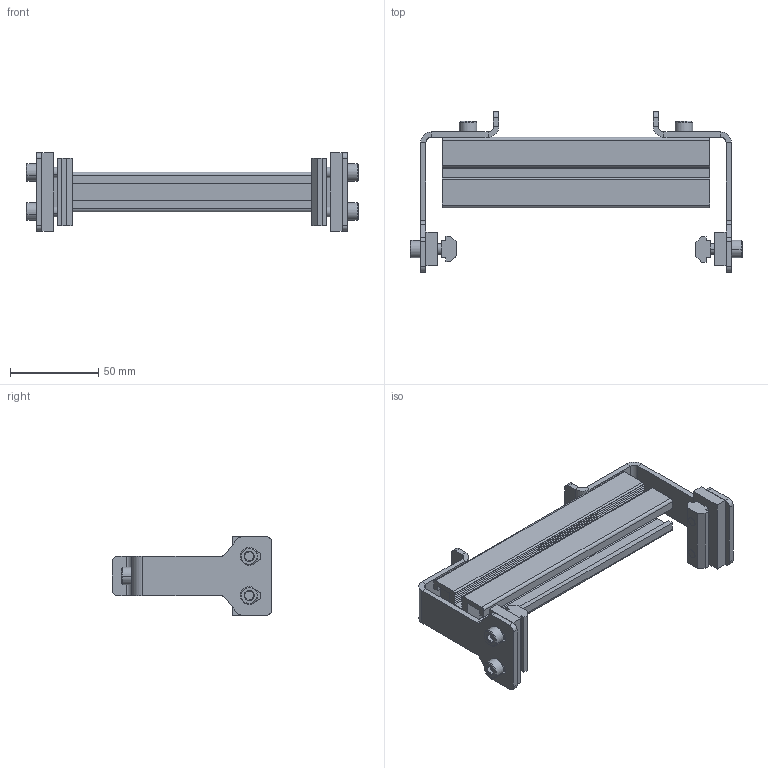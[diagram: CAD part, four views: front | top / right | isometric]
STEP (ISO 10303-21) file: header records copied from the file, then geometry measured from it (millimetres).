
FILE_DESCRIPTION((''),'2;1');
FILE_NAME('207137-06_ASM','2017-05-03T',('jenni.wallner'),(''),'PRO/ENGINEER BY PARAMETRIC TECHNOLOGY CORPORATION, 2012420','PRO/ENGINEER BY PARAMETRIC TECHNOLOGY CORPORATION, 2012420','');
FILE_SCHEMA(('CONFIG_CONTROL_DESIGN'));
Length unit declared in the file: inch
Products named in the file (9): 9206XXM_920614M; 207134; 639971M_CAE; 207135-WW_207135-06; 9206XXM_920620M; 200626M; 202444; ASM0005_ASM; 207137-06_ASM
Assembly tree (16 placements, depth 3):
  207137-06_ASM
    ASM0005_ASM
      9206XXM_920614M  x2
      207134  x2
      639971M_CAE  x2
      207135-WW_207135-06
      9206XXM_920620M  x4
      200626M  x2
      202444  x2
Bounding box: 188.17 x 90.68 x 44.45 mm (x, y, z)
Volume: 106380.5 mm3; surface area: 68451.9 mm2
Topology: 15 solids, 15 shells, 432 faces, 1062 edges, 672 vertices
Faces by surface type: plane 258, cylinder 108, cone 66
Entity records: 7631 total; most frequent: CARTESIAN_POINT 1408, DIRECTION 1286, ORIENTED_EDGE 1228, EDGE_CURVE 614, VECTOR 462, LINE 462, AXIS2_PLACEMENT_3D 412, VERTEX_POINT 396
